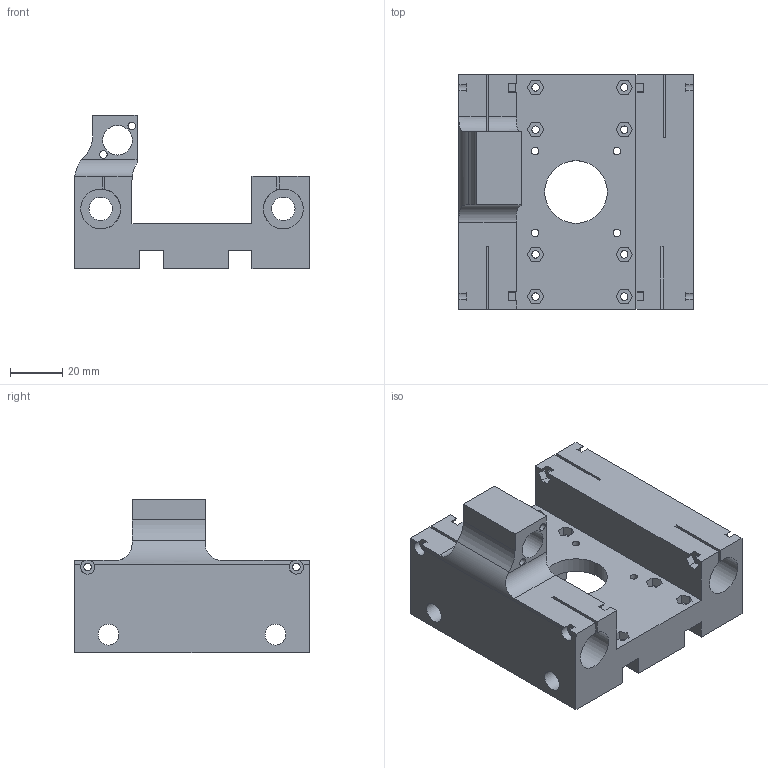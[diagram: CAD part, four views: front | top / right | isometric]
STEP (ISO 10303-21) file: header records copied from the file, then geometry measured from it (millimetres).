
FILE_DESCRIPTION(('FreeCAD Model'),'2;1');
FILE_NAME('/home/ricardo/FreeCAD/myPrinter/FreeCAD/y_axis_body_v3.step', '2015-01-03T07:06:33',('Author'),(''), 'Open CASCADE STEP processor 6.7','FreeCAD','Unknown');
FILE_SCHEMA(('AUTOMOTIVE_DESIGN_CC2 { 1 2 10303 214 -1 1 5 4 }'));
Length unit declared in the file: millimetre
Products named in the file (1): final_body_3_4
Bounding box: 90 x 90 x 59 mm (x, y, z)
Volume: 149814 mm3; surface area: 48608.1 mm2
Topology: 1 solids, 1 shells, 184 faces, 562 edges, 380 vertices
Faces by surface type: plane 138, cylinder 46
Full cylindrical faces by diameter (mm): 2.86 x12, 2.9 x2, 2.94 x8, 8 x2, 9 x2, 11.34 x1, 15.3 x4, 24 x1
Entity records: 14670 total; most frequent: CARTESIAN_POINT 3786, DIRECTION 1904, LINE 1244, VECTOR 1244, ORIENTED_EDGE 1124, PCURVE 1124, DEFINITIONAL_REPRESENTATION 1124, EDGE_CURVE 562
